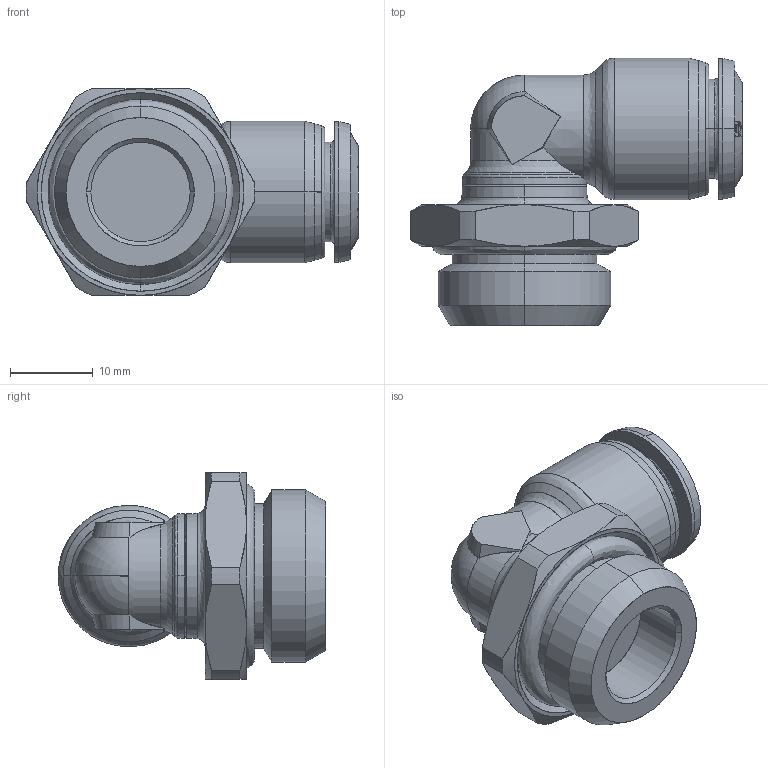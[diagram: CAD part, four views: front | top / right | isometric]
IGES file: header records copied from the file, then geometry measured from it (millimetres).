
Start section: SolidWorks IGES file using analytic representation for surfaces
Global section: file name: K:\Disegni Esecutivi\Serie 55000\ASSIEMI_55000\55116\ASSIEMI_PIENI_55116\5511600023.IGS; native system: SolidWorks 2007; preprocessor: SolidWorks 2007; author: cad02; date: 071126.084525; units: millimetre
Bounding box: 40.15 x 32.35 x 25 mm (x, y, z)
Surface area: 4773.3 mm2 (no closed solid volume)
Topology: 0 solids, 0 shells, 192 faces, 2122 edges, 2120 vertices
Faces by surface type: bspline 106, revolution 86
